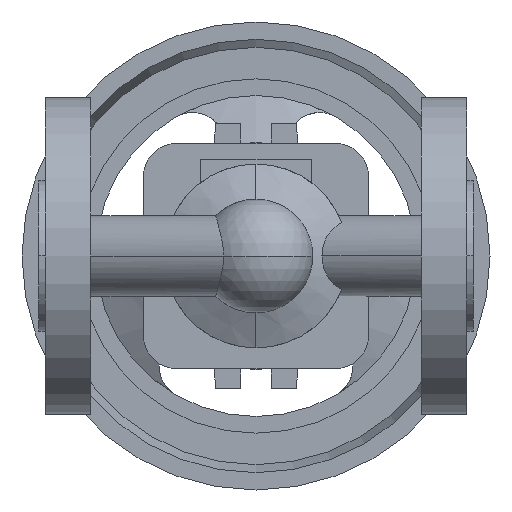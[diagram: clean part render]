
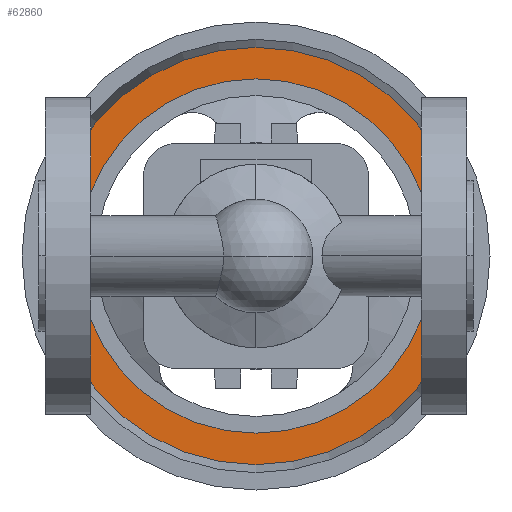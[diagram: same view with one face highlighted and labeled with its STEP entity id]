
A CAD part, front view. The second image highlights one B-rep face of the part: STEP entity #62860.
In plain terms, the highlighted planar face has unit normal (0, -1, 0).
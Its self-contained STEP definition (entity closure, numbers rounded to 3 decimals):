
#62310=CARTESIAN_POINT('',(127.412,236.5,0.))
;
#62320=VERTEX_POINT('',#62310);
#62350=CARTESIAN_POINT('',(65.,236.5,0.));
#62360=DIRECTION('',(0.,1.,0.));
#62370=DIRECTION('',(-1.,0.,0.));
#62380=AXIS2_PLACEMENT_3D('',#62350,#62360,#62370);
#62390=CIRCLE('',#62380,62.412);
#62400=CARTESIAN_POINT('',(2.588,236.5,0.));
#62410=VERTEX_POINT('',#62400);
#62420=EDGE_CURVE('',#62410,#62320,#62390,.T.);
#62610=CARTESIAN_POINT('',(7.294,236.5,0.))
;
#62620=DIRECTION('',(0.,-1.,0.));
#62630=DIRECTION('',(1.,0.,0.));
#62640=AXIS2_PLACEMENT_3D('',#62610,#62620,#62630);
#62650=PLANE('',#62640);
#62660=EDGE_CURVE('',#62320,#62410,#62390,.T.);
#62670=ORIENTED_EDGE('',*,*,#62660,.F.);
#62680=ORIENTED_EDGE('',*,*,#62420,.F.);
#62690=EDGE_LOOP('',(#62680,#62670));
#62700=FACE_OUTER_BOUND('',#62690,.T.);
#62710=CARTESIAN_POINT('',(65.,236.5,0.));
#62720=DIRECTION('',(0.,1.,0.));
#62730=DIRECTION('',(-1.,0.,0.));
#62740=AXIS2_PLACEMENT_3D('',#62710,#62720,#62730);
#62750=CIRCLE('',#62740,53.);
#62760=CARTESIAN_POINT('',(118.,236.5,0.));
#62770=VERTEX_POINT('',#62760);
#62780=CARTESIAN_POINT('',(12.,236.5,0.));
#62790=VERTEX_POINT('',#62780);
#62800=EDGE_CURVE('',#62770,#62790,#62750,.T.);
#62810=ORIENTED_EDGE('',*,*,#62800,.T.);
#62820=EDGE_CURVE('',#62790,#62770,#62750,.T.);
#62830=ORIENTED_EDGE('',*,*,#62820,.T.);
#62840=EDGE_LOOP('',(#62830,#62810));
#62850=FACE_BOUND('',#62840,.T.);
#62860=ADVANCED_FACE('',(#62700,#62850),#62650,.T.);
